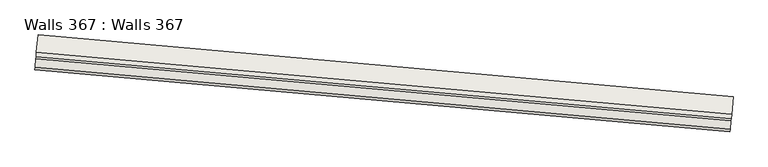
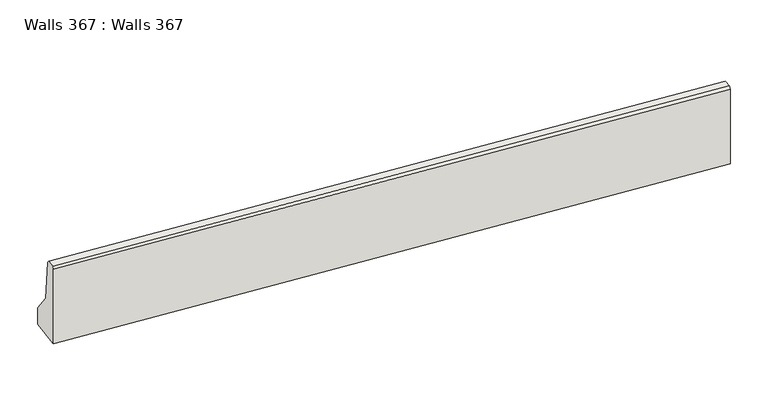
"""IFC4 building model written with IfcOpenShell, lengths in millimetres: wall geometry, Walls 367 : Walls 367."""

from ifc_helpers import new_model, si_unit, frame, origin, place, context, project, spatial, polyline, outline, extrude, source, transform, mapped, element, save


def walls_367_walls_367_30e9f081(model_context):
    return source(origin(), model_context, "Body", "SweptSolid", [
        extrude(outline(polyline([(637180.0, 400.0000001), (637430.0, 200.0), (637935.0, 150.0), (637960.0, 125.0), (637960.0, 25.0), (637935.0, 0.0), (636960.0, 0.0), (636960.0, 400.0000001), (637180.0, 400.0000001)])), frame((-674669.129543, -418975.0580251, 0.0), z_axis=(-0.9960550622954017, 0.08873732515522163, 0.0), x_axis=(0.0, 0.0, 1.0)), (0.0, 0.0, 1.0), 8000.0000001),
    ])


if __name__ == "__main__":
    model = new_model("IFC4")
    model_context = context("Model", 3, world=origin())
    ifc_project = project(units=[si_unit("LENGTHUNIT", "METRE", prefix="MILLI")], contexts=[model_context])
    site = spatial("IfcSite", under=ifc_project)
    building = spatial("IfcBuilding", under=site)
    placement = place(None, origin())
    walls_367_walls_367_shape = walls_367_walls_367_30e9f081(model_context)
    element("IfcWall", 1, ObjectType="Walls 367 : Walls 367", at=placement, inside=building, context=model_context, shape_type="MappedRepresentation", body=[
        mapped(walls_367_walls_367_shape, transform((0.0, 0.0, 0.0), x_axis=(1.0, 0.0, 0.0), y_axis=(0.0, 1.0, 0.0), z_axis=(0.0, 0.0, 1.0))),
    ])
    save(model, "model.ifc")
